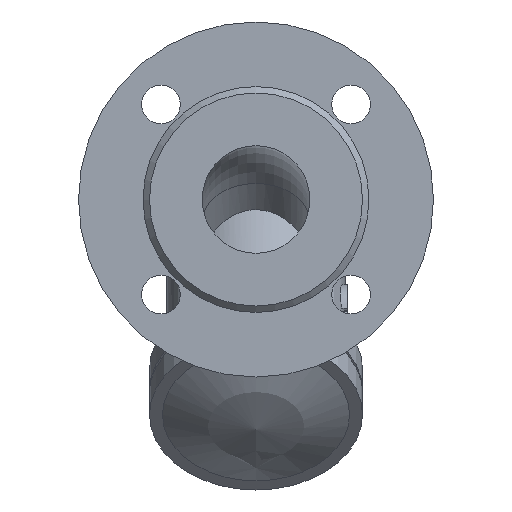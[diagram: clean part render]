
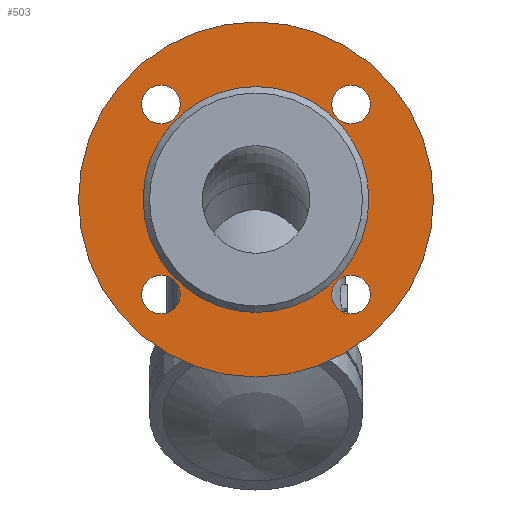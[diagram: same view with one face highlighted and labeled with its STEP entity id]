
A CAD part, front view. The second image highlights one B-rep face of the part: STEP entity #503.
In plain terms, the highlighted planar face has unit normal (0, -1, 0).
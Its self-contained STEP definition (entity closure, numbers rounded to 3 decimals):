
#503=ADVANCED_FACE('',(#1074,#1076,#1078,#1080,#1082,#1084),#1086,.T.);
#1074=FACE_BOUND('',#1075,.T.);
#1075=EDGE_LOOP('',(#1438));
#1076=FACE_BOUND('',#1077,.T.);
#1077=EDGE_LOOP('',(#1439));
#1078=FACE_BOUND('',#1079,.T.);
#1079=EDGE_LOOP('',(#1440));
#1080=FACE_BOUND('',#1081,.T.);
#1081=EDGE_LOOP('',(#1441));
#1082=FACE_BOUND('',#1083,.T.);
#1083=EDGE_LOOP('',(#1442));
#1084=FACE_BOUND('',#1085,.T.);
#1085=EDGE_LOOP('',(#1443));
#1086=PLANE('',#1087);
#1087=AXIS2_PLACEMENT_3D('',#1088,#1089,#1090);
#1088=CARTESIAN_POINT('',(0.,-112.,0.));
#1089=DIRECTION('',(0.,-1.,0.));
#1090=DIRECTION('',(0.,0.,1.));
#1438=ORIENTED_EDGE('',*,*,#1572,.F.);
#1439=ORIENTED_EDGE('',*,*,#1576,.T.);
#1440=ORIENTED_EDGE('',*,*,#1575,.T.);
#1441=ORIENTED_EDGE('',*,*,#1574,.T.);
#1442=ORIENTED_EDGE('',*,*,#1583,.T.);
#1443=ORIENTED_EDGE('',*,*,#1573,.T.);
#1572=EDGE_CURVE('',#1760,#1760,#1761,.T.);
#1573=EDGE_CURVE('',#1762,#1762,#1763,.F.);
#1574=EDGE_CURVE('',#1764,#1764,#1765,.F.);
#1575=EDGE_CURVE('',#1766,#1766,#1767,.F.);
#1576=EDGE_CURVE('',#1768,#1768,#1769,.F.);
#1583=EDGE_CURVE('',#1782,#1782,#1783,.T.);
#1760=VERTEX_POINT('',#2996);
#1761=CIRCLE('',#2997,82.5);
#1762=VERTEX_POINT('',#3001);
#1763=CIRCLE('',#3002,9.);
#1764=VERTEX_POINT('',#3006);
#1765=CIRCLE('',#3007,9.);
#1766=VERTEX_POINT('',#3011);
#1767=CIRCLE('',#3012,9.);
#1768=VERTEX_POINT('',#3016);
#1769=CIRCLE('',#3017,9.);
#1782=VERTEX_POINT('',#3051);
#1783=CIRCLE('',#3052,52.5);
#2996=CARTESIAN_POINT('',(0.,-112.,82.5));
#2997=AXIS2_PLACEMENT_3D('',#2998,#2999,#3000);
#2998=CARTESIAN_POINT('',(0.,-112.,0.));
#2999=DIRECTION('',(0.,1.,0.));
#3000=DIRECTION('',(0.,0.,1.));
#3001=CARTESIAN_POINT('',(-35.194,-112.,44.194));
#3002=AXIS2_PLACEMENT_3D('',#3003,#3004,#3005);
#3003=CARTESIAN_POINT('',(-44.194,-112.,44.194));
#3004=DIRECTION('',(0.,-1.,0.));
#3005=DIRECTION('',(1.,0.,0.));
#3006=CARTESIAN_POINT('',(-44.194,-112.,-35.194));
#3007=AXIS2_PLACEMENT_3D('',#3008,#3009,#3010);
#3008=CARTESIAN_POINT('',(-44.194,-112.,-44.194));
#3009=DIRECTION('',(0.,-1.,0.));
#3010=DIRECTION('',(0.,0.,1.));
#3011=CARTESIAN_POINT('',(35.194,-112.,-44.194));
#3012=AXIS2_PLACEMENT_3D('',#3013,#3014,#3015);
#3013=CARTESIAN_POINT('',(44.194,-112.,-44.194));
#3014=DIRECTION('',(0.,-1.,0.));
#3015=DIRECTION('',(-1.,0.,0.));
#3016=CARTESIAN_POINT('',(44.194,-112.,35.194));
#3017=AXIS2_PLACEMENT_3D('',#3018,#3019,#3020);
#3018=CARTESIAN_POINT('',(44.194,-112.,44.194));
#3019=DIRECTION('',(0.,-1.,0.));
#3020=DIRECTION('',(0.,0.,-1.));
#3051=CARTESIAN_POINT('',(0.,-112.,52.5));
#3052=AXIS2_PLACEMENT_3D('',#3053,#3054,#3055);
#3053=CARTESIAN_POINT('',(0.,-112.,0.));
#3054=DIRECTION('',(0.,1.,0.));
#3055=DIRECTION('',(0.,0.,1.));
